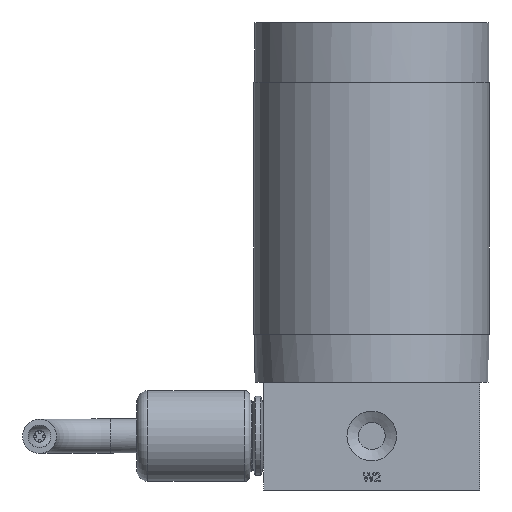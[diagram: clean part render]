
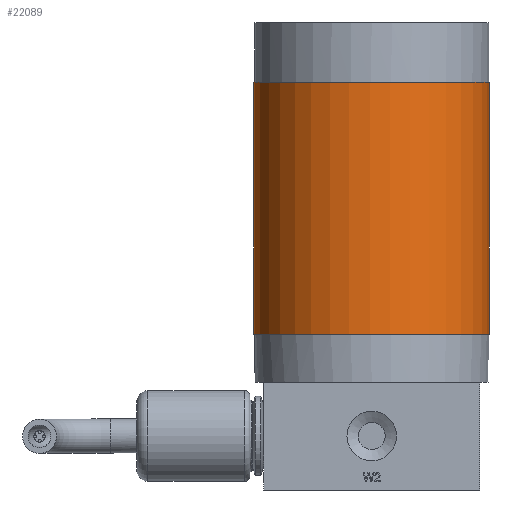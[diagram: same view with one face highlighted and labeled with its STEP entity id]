
A CAD part, left-side view. The second image highlights one B-rep face of the part: STEP entity #22089.
In plain terms, the highlighted cylindrical face has radius 20.765 mm (diameter 41.529 mm), a full revolution.
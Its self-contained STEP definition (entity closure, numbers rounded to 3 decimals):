
#635=CYLINDRICAL_SURFACE('',#23378,20.765);
#1969=CIRCLE('',#23371,20.765);
#1972=CIRCLE('',#23375,20.765);
#2364=FACE_OUTER_BOUND('',#3593,.T.);
#3593=EDGE_LOOP('',(#15095,#15096,#15097,#15098));
#6002=LINE('',#29402,#7758);
#7758=VECTOR('',#24710,20.765);
#9597=VERTEX_POINT('',#29388);
#9600=VERTEX_POINT('',#29395);
#11790=EDGE_CURVE('',#9597,#9597,#1969,.T.);
#11793=EDGE_CURVE('',#9600,#9600,#1972,.T.);
#11796=EDGE_CURVE('',#9600,#9597,#6002,.T.);
#15095=ORIENTED_EDGE('',*,*,#11793,.T.);
#15096=ORIENTED_EDGE('',*,*,#11796,.T.);
#15097=ORIENTED_EDGE('',*,*,#11790,.F.);
#15098=ORIENTED_EDGE('',*,*,#11796,.F.);
#22089=ADVANCED_FACE('',(#2364),#635,.T.);
#23371=AXIS2_PLACEMENT_3D('',#29389,#24694,#24695);
#23375=AXIS2_PLACEMENT_3D('',#29396,#24702,#24703);
#23378=AXIS2_PLACEMENT_3D('',#29401,#24708,#24709);
#24694=DIRECTION('center_axis',(0.,0.,-1.));
#24695=DIRECTION('ref_axis',(-1.,0.016,0.));
#24702=DIRECTION('center_axis',(0.,0.,-1.));
#24703=DIRECTION('ref_axis',(-1.,0.016,0.));
#24708=DIRECTION('center_axis',(0.,0.,1.));
#24709=DIRECTION('ref_axis',(-1.,0.016,0.));
#24710=DIRECTION('',(0.,0.,-1.));
#29388=CARTESIAN_POINT('',(20.762,-0.329,27.456));
#29389=CARTESIAN_POINT('Origin',(0.,0.,27.456));
#29395=CARTESIAN_POINT('',(20.762,-0.329,71.906));
#29396=CARTESIAN_POINT('Origin',(0.,0.,71.906));
#29401=CARTESIAN_POINT('Origin',(0.,0.,27.456));
#29402=CARTESIAN_POINT('',(20.762,-0.329,27.456));
